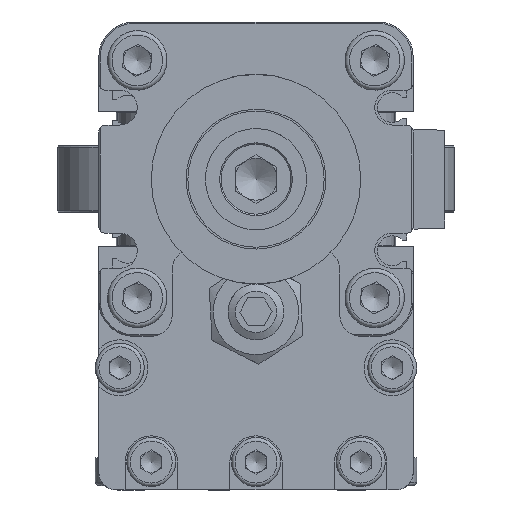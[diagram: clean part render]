
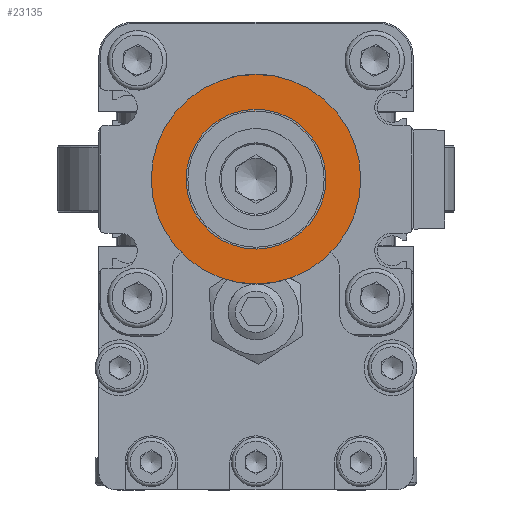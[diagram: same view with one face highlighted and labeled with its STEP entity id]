
A CAD part, front view. The second image highlights one B-rep face of the part: STEP entity #23135.
In plain terms, the highlighted planar face has unit normal (0, -1, 0).
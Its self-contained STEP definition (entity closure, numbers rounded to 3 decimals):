
#20480=FACE_BOUND('',#30609,.T.);
#20481=FACE_BOUND('',#30610,.T.);
#23135=ADVANCED_FACE('',(#20480,#20481),#25297,.T.);
#25297=PLANE('',#60359);
#30609=EDGE_LOOP('',(#48205));
#30610=EDGE_LOOP('',(#48206));
#48205=ORIENTED_EDGE('',*,*,#55904,.T.);
#48206=ORIENTED_EDGE('',*,*,#55908,.F.);
#50980=VERTEX_POINT('',#83932);
#50984=VERTEX_POINT('',#84055);
#55904=EDGE_CURVE('',#50980,#50980,#56797,.T.);
#55908=EDGE_CURVE('',#50984,#50984,#56799,.T.);
#56797=CIRCLE('',#60353,15.);
#56799=CIRCLE('',#60356,9.75);
#60353=AXIS2_PLACEMENT_3D('',#83931,#71356,#71357);
#60356=AXIS2_PLACEMENT_3D('',#84054,#71362,#71363);
#60359=AXIS2_PLACEMENT_3D('',#84058,#71368,#71369);
#71356=DIRECTION('',(0.,-1.,0.));
#71357=DIRECTION('',(1.,0.,0.));
#71362=DIRECTION('',(0.,-1.,0.));
#71363=DIRECTION('',(1.,0.,0.));
#71368=DIRECTION('',(0.,-1.,0.));
#71369=DIRECTION('',(0.,0.,-1.));
#83931=CARTESIAN_POINT('',(-200.,-274.,-22.5));
#83932=CARTESIAN_POINT('',(-185.,-274.,-22.5));
#84054=CARTESIAN_POINT('',(-200.,-274.,-22.5));
#84055=CARTESIAN_POINT('',(-190.25,-274.,-22.5));
#84058=CARTESIAN_POINT('',(-200.,-274.,-22.5));
